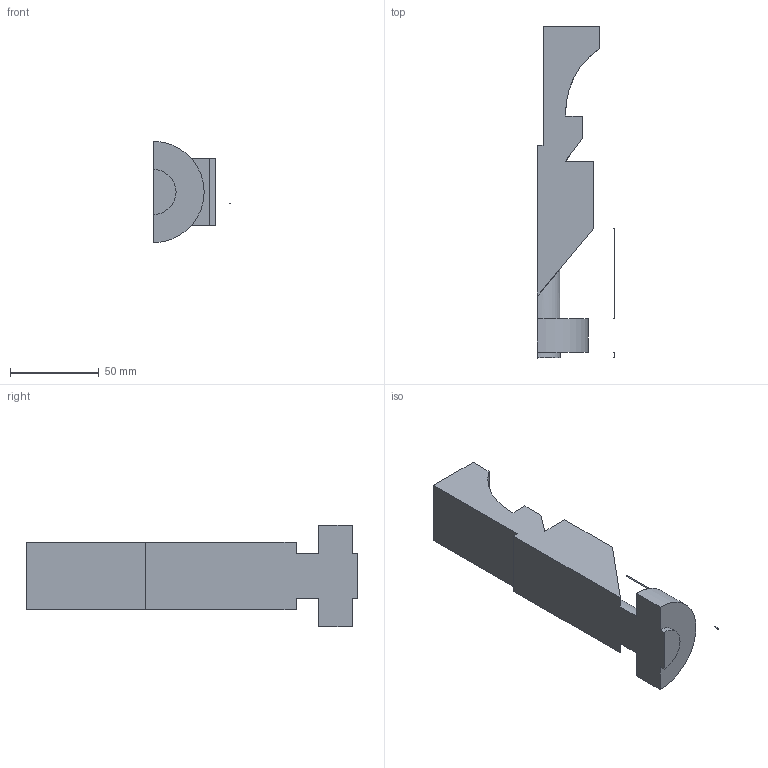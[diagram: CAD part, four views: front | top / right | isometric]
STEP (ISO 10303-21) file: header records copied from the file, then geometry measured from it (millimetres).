
FILE_DESCRIPTION(/* description */ ('Alibre Inc.'),/* implementation_level */ '2;1');
FILE_NAME(/* name */ 'export0',/* time_stamp */ '2018-10-04T12:28:18-04:00',/* author */ (''),/* organization */ (''),/* preprocessor_version */ 'ST-DEVELOPER v17',/* originating_system */ 'Alibre',/* authorisation */ '');
FILE_SCHEMA (('CONFIG_CONTROL_DESIGN'));
Length unit declared in the file: centimetre
Products named in the file (1): ID_1
Bounding box: 43.46 x 187.32 x 57.15 mm (x, y, z)
Volume: 161113.7 mm3; surface area: 27809.4 mm2
Topology: 3 solids, 3 shells, 26 faces, 60 edges, 40 vertices
Faces by surface type: plane 20, cylinder 6
Full cylindrical faces by diameter (mm): 0.471 x2
Entity records: 775 total; most frequent: CARTESIAN_POINT 121, ORIENTED_EDGE 116, DIRECTION 99, EDGE_CURVE 58, VECTOR 43, LINE 43, VERTEX_POINT 40, AXIS2_PLACEMENT_3D 38
